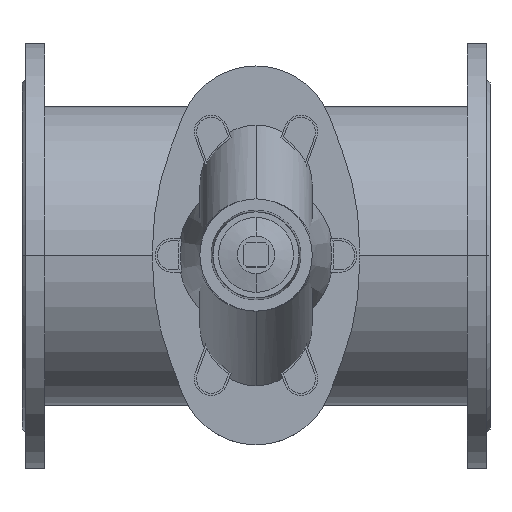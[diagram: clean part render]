
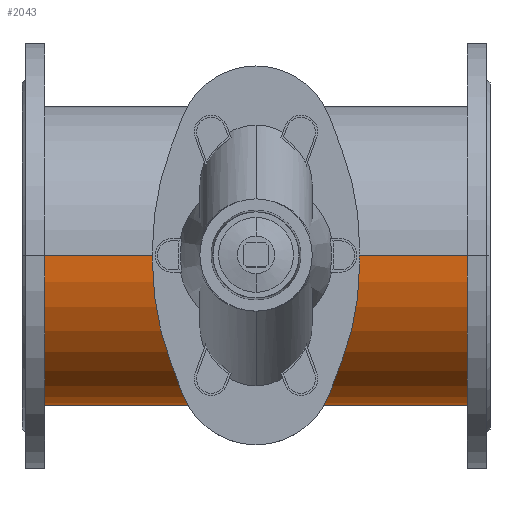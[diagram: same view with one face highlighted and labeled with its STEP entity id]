
A CAD part, top view. The second image highlights one B-rep face of the part: STEP entity #2043.
In plain terms, the highlighted cylindrical face has radius 160 mm (diameter 320 mm), a partial arc.
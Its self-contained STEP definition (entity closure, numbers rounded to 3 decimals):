
#2043=ADVANCED_FACE('',(#3829),#3830,.T.);
#3829=FACE_OUTER_BOUND('',#5901,.T.);
#3830=CYLINDRICAL_SURFACE('',#5902,160.0);
#5901=EDGE_LOOP('',(#10145,#10146,#10147,#10148));
#5902=AXIS2_PLACEMENT_3D('',#10149,#10150,#10151);
#10145=ORIENTED_EDGE('',*,*,#11860,.F.);
#10146=ORIENTED_EDGE('',*,*,#10917,.T.);
#10147=ORIENTED_EDGE('',*,*,#11861,.F.);
#10148=ORIENTED_EDGE('',*,*,#10889,.T.);
#10149=CARTESIAN_POINT('',(24.5,0.0,0.));
#10150=DIRECTION('',(1.0,0.0,0.));
#10151=DIRECTION('',(0.,0.0,1.0));
#10889=EDGE_CURVE('',#12949,#12948,#12951,.T.);
#10917=EDGE_CURVE('',#12995,#12996,#12997,.T.);
#11860=EDGE_CURVE('',#12995,#12948,#14379,.T.);
#11861=EDGE_CURVE('',#12949,#12996,#14380,.T.);
#12948=VERTEX_POINT('',#15708);
#12949=VERTEX_POINT('',#15709);
#12951=CIRCLE('',#15711,160.0);
#12995=VERTEX_POINT('',#15770);
#12996=VERTEX_POINT('',#15771);
#12997=CIRCLE('',#15772,160.0);
#14379=LINE('',#17540,#17541);
#14380=LINE('',#17542,#17543);
#15708=CARTESIAN_POINT('',(475.5,0.0,160.0));
#15709=CARTESIAN_POINT('',(475.5,0.,-160.0));
#15711=AXIS2_PLACEMENT_3D('',#18640,#18641,#18642);
#15770=CARTESIAN_POINT('',(24.5,0.0,160.0));
#15771=CARTESIAN_POINT('',(24.5,0.,-160.0));
#15772=AXIS2_PLACEMENT_3D('',#18670,#18671,#18672);
#17540=CARTESIAN_POINT('',(24.5,0.,160.0));
#17541=VECTOR('',#19968,1.0);
#17542=CARTESIAN_POINT('',(24.5,0.,-160.0));
#17543=VECTOR('',#19969,1.0);
#18640=CARTESIAN_POINT('',(475.5,0.0,0.));
#18641=DIRECTION('',(-1.0,0.0,0.));
#18642=DIRECTION('',(0.,0.0,1.0));
#18670=CARTESIAN_POINT('',(24.5,0.0,0.));
#18671=DIRECTION('',(1.0,0.0,0.));
#18672=DIRECTION('',(0.,0.0,1.0));
#19968=DIRECTION('',(1.0,0.0,0.));
#19969=DIRECTION('',(-1.0,-0.0,0.));
